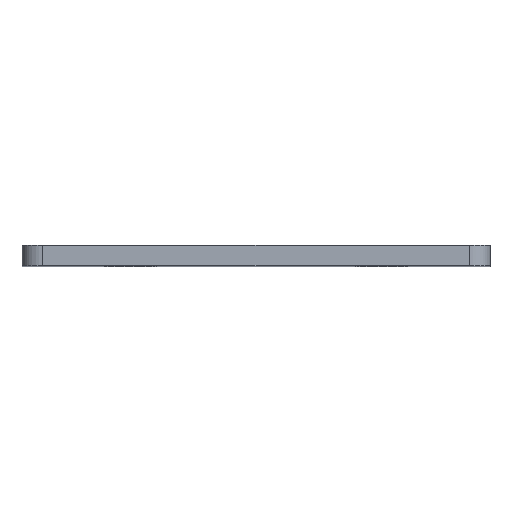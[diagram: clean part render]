
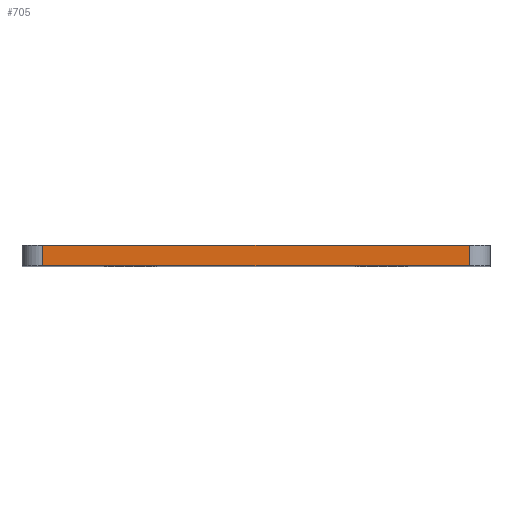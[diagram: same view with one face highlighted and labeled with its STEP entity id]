
A CAD part, top view. The second image highlights one B-rep face of the part: STEP entity #705.
In plain terms, the highlighted planar face has unit normal (0, 0, 1).
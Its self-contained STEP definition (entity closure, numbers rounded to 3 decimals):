
#3 = LINE ( 'NONE', #422, #593 ) ;
#23 = CARTESIAN_POINT ( 'NONE',  ( 108.172, 0., 13. ) ) ;
#31 = CARTESIAN_POINT ( 'NONE',  ( 108.172, 0., 13. ) ) ;
#49 = ORIENTED_EDGE ( 'NONE', *, *, #113, .T. ) ;
#50 = LINE ( 'NONE', #717, #650 ) ;
#57 = VECTOR ( 'NONE', #445, 1000. ) ;
#58 = VERTEX_POINT ( 'NONE', #152 ) ;
#63 = ORIENTED_EDGE ( 'NONE', *, *, #713, .F. ) ;
#88 = DIRECTION ( 'NONE',  ( 1., 0., 0. ) ) ;
#113 = EDGE_CURVE ( 'NONE', #228, #179, #3, .T. ) ;
#152 = CARTESIAN_POINT ( 'NONE',  ( 161.672, 2.5, 13. ) ) ;
#154 = EDGE_CURVE ( 'NONE', #179, #481, #268, .T. ) ;
#177 = EDGE_LOOP ( 'NONE', ( #63, #49, #704, #474 ) ) ;
#179 = VERTEX_POINT ( 'NONE', #436 ) ;
#184 = DIRECTION ( 'NONE',  ( 1., 0., 0. ) ) ;
#190 = DIRECTION ( 'NONE',  ( 1., 0., 0. ) ) ;
#206 = DIRECTION ( 'NONE',  ( 0., -1., 0. ) ) ;
#228 = VERTEX_POINT ( 'NONE', #322 ) ;
#237 = AXIS2_PLACEMENT_3D ( 'NONE', #23, #599, #190 ) ;
#268 = LINE ( 'NONE', #31, #607 ) ;
#322 = CARTESIAN_POINT ( 'NONE',  ( 110.672, 2.5, 13. ) ) ;
#393 = LINE ( 'NONE', #740, #57 ) ;
#422 = CARTESIAN_POINT ( 'NONE',  ( 110.672, 0., 13. ) ) ;
#436 = CARTESIAN_POINT ( 'NONE',  ( 110.672, 0., 13. ) ) ;
#445 = DIRECTION ( 'NONE',  ( 0., 1., 0. ) ) ;
#469 = FACE_OUTER_BOUND ( 'NONE', #177, .T. ) ;
#474 = ORIENTED_EDGE ( 'NONE', *, *, #489, .T. ) ;
#481 = VERTEX_POINT ( 'NONE', #677 ) ;
#489 = EDGE_CURVE ( 'NONE', #481, #58, #393, .T. ) ;
#593 = VECTOR ( 'NONE', #206, 1000. ) ;
#599 = DIRECTION ( 'NONE',  ( 0., 0., 1. ) ) ;
#607 = VECTOR ( 'NONE', #88, 1000. ) ;
#650 = VECTOR ( 'NONE', #184, 1000. ) ;
#651 = PLANE ( 'NONE',  #237 ) ;
#677 = CARTESIAN_POINT ( 'NONE',  ( 161.672, 0., 13. ) ) ;
#704 = ORIENTED_EDGE ( 'NONE', *, *, #154, .T. ) ;
#705 = ADVANCED_FACE ( 'NONE', ( #469 ), #651, .T. ) ;
#713 = EDGE_CURVE ( 'NONE', #228, #58, #50, .T. ) ;
#717 = CARTESIAN_POINT ( 'NONE',  ( 108.172, 2.5, 13. ) ) ;
#740 = CARTESIAN_POINT ( 'NONE',  ( 161.672, 0., 13. ) ) ;
